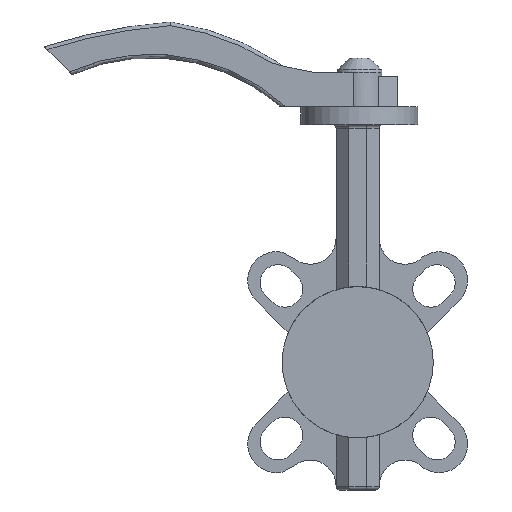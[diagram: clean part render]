
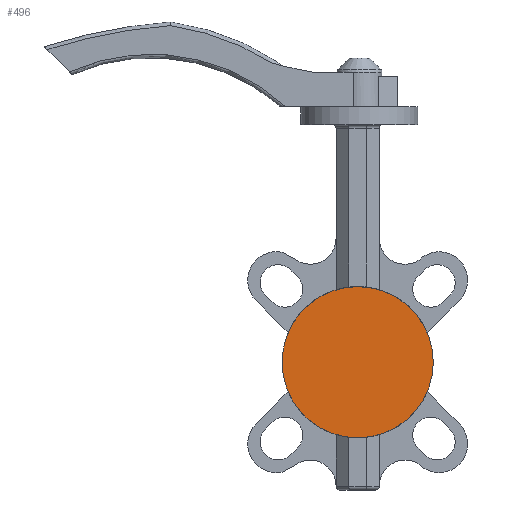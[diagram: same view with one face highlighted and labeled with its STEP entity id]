
A CAD part, front view. The second image highlights one B-rep face of the part: STEP entity #496.
In plain terms, the highlighted planar face has unit normal (0, -1, 0).
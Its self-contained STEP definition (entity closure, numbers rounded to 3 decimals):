
#424=CIRCLE('',#3653,42.);
#496=ADVANCED_FACE('',(#780),#688,.T.);
#688=PLANE('',#3670);
#780=FACE_OUTER_BOUND('',#959,.T.);
#959=EDGE_LOOP('',(#1236));
#1236=ORIENTED_EDGE('',*,*,#2543,.F.);
#2206=VERTEX_POINT('',#4765);
#2543=EDGE_CURVE('',#2206,#2206,#424,.T.);
#3653=AXIS2_PLACEMENT_3D('',#4764,#3930,#3931);
#3670=AXIS2_PLACEMENT_3D('',#4821,#3980,#3981);
#3930=DIRECTION('',(0.,1.,0.));
#3931=DIRECTION('',(0.,0.,1.));
#3980=DIRECTION('',(0.,-1.,0.));
#3981=DIRECTION('',(0.,0.,-1.));
#4764=CARTESIAN_POINT('',(0.,0.,0.));
#4765=CARTESIAN_POINT('',(0.,0.,42.));
#4821=CARTESIAN_POINT('',(0.,0.,42.));
